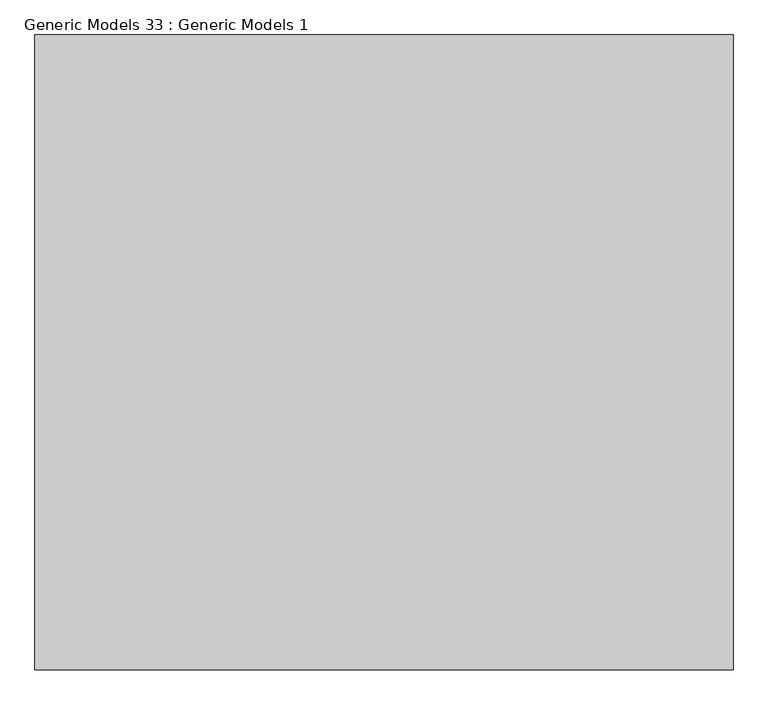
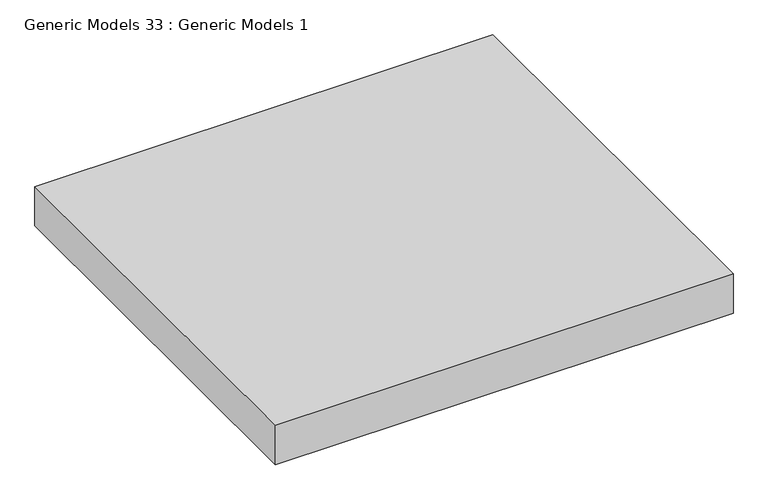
"""IFC4 building model written with IfcOpenShell, lengths in millimetres: proxy geometry, Generic Models 33 : Generic Models 1."""

from ifc_helpers import new_model, si_unit, origin, origin_with_axes, place, context, project, spatial, polyline, outline, extrude, source, transform, mapped, element, save


def generic_models_33_generic_models_1_8c2d4387(model_context):
    return source(origin(), model_context, "Body", "SweptSolid", [
        extrude(outline(polyline([(9741.0810265, -5886.5772826), (9741.0810265, -4886.5772826), (10841.0810265, -4886.5772826), (10841.0810265, -5886.5772826), (9741.0810265, -5886.5772826)])), origin_with_axes(), (0.0, 0.0, 1.0), 100.0),
    ])


if __name__ == "__main__":
    model = new_model("IFC4")
    model_context = context("Model", 3, world=origin())
    ifc_project = project(units=[si_unit("LENGTHUNIT", "METRE", prefix="MILLI")], contexts=[model_context])
    site = spatial("IfcSite", under=ifc_project)
    building = spatial("IfcBuilding", under=site)
    placement = place(None, origin())
    generic_models_33_generic_models_1_shape = generic_models_33_generic_models_1_8c2d4387(model_context)
    element("IfcBuildingElementProxy", 1, Name="Generic Models 33 : Generic Models 1", ObjectType="Generic Models 33 : Generic Models 1", at=placement, inside=building, context=model_context, shape_type="MappedRepresentation", body=[
        mapped(generic_models_33_generic_models_1_shape, transform((0.0, 0.0, 0.0), x_axis=(1.0, 0.0, 0.0), y_axis=(0.0, 1.0, 0.0), z_axis=(0.0, 0.0, 1.0))),
    ])
    save(model, "model.ifc")
